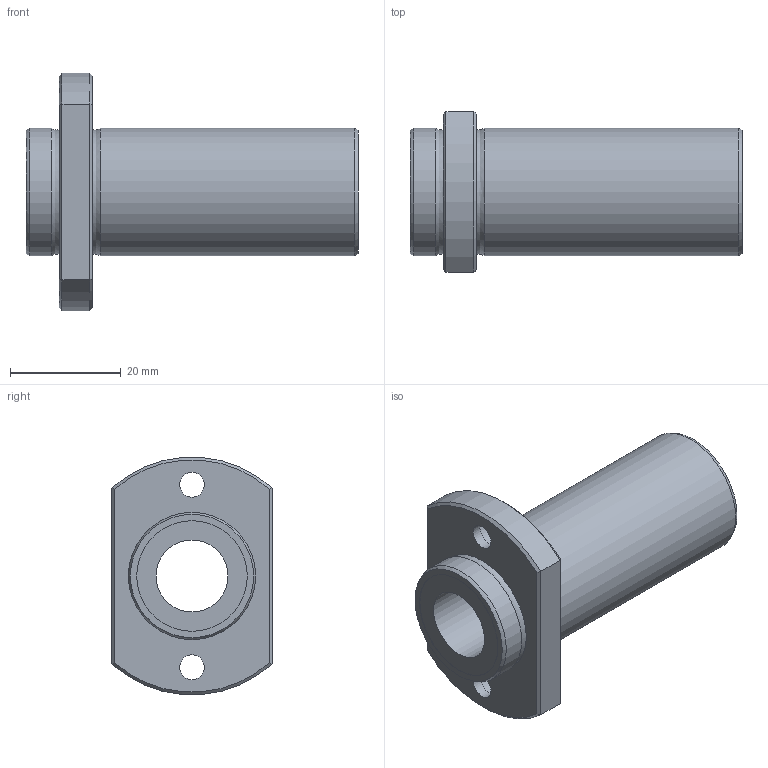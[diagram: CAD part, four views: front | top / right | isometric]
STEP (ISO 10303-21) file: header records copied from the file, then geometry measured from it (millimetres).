
FILE_DESCRIPTION((''),'2;1');
FILE_NAME('D:\製品 (図面)\カタログ用3D\リニアベアリング関連\STEP形式\LFDTB\LFDTB13.stp','2010-06-03T09:50:35',('Tsuchiya'),(''),'Autodesk Inventor 10','Autodesk Inventor 10','');
FILE_SCHEMA(('AUTOMOTIVE_DESIGN { 1 0 10303 214 1 1 1 1 }'));
Length unit declared in the file: millimetre
Products named in the file (1): LFDTB13
Bounding box: 60 x 29 x 42.85 mm (x, y, z)
Volume: 20724.1 mm3; surface area: 9267 mm2
Topology: 1 solids, 1 shells, 33 faces, 63 edges, 38 vertices
Faces by surface type: plane 12, bspline 8, cylinder 7, cone 4, torus 2
Full cylindrical faces by diameter (mm): 13 x1, 20 x2, 23 x2
Entity records: 977 total; most frequent: CARTESIAN_POINT 344, DIRECTION 124, ORIENTED_EDGE 100, EDGE_LOOP 58, AXIS2_PLACEMENT_3D 56, EDGE_CURVE 50, VERTEX_POINT 38, FACE_OUTER_BOUND 33
